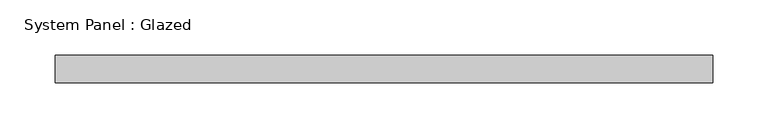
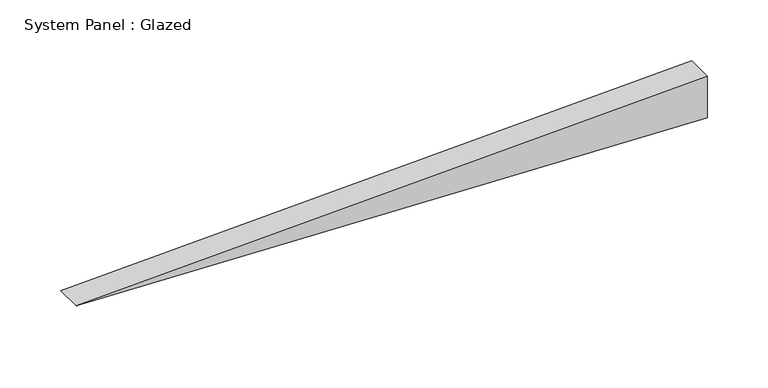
"""IFC4 building model written with IfcOpenShell, lengths in millimetres: plate geometry, System Panel : Glazed."""

from ifc_helpers import new_model, si_unit, origin, place, context, project, spatial, faceted_brep, source, transform, mapped, element, save


def system_panel_glazed_7e7e82f3(model_context):
    return source(origin(), model_context, "Body", "Brep", [
        faceted_brep([(-298.5527441, 24.5, 20.7482734), (298.5527441, 24.5, 0.0), (298.5527441, 24.5, 41.6733756), (-298.5527441, 49.5, 20.9251022), (298.5527441, 49.5, 41.6733756), (298.5527441, 49.5, 0.0)], [[[0, 1, 2]], [[3, 4, 5]], [[1, 0, 3, 5]], [[2, 1, 5, 4]], [[0, 2, 4, 3]]]),
    ])


if __name__ == "__main__":
    model = new_model("IFC4")
    model_context = context("Model", 3, world=origin())
    ifc_project = project(units=[si_unit("LENGTHUNIT", "METRE", prefix="MILLI")], contexts=[model_context])
    site = spatial("IfcSite", under=ifc_project)
    building = spatial("IfcBuilding", under=site)
    placement = place(None, origin())
    system_panel_glazed_shape = system_panel_glazed_7e7e82f3(model_context)
    element("IfcPlate", 1, ObjectType="System Panel : Glazed", at=placement, inside=building, context=model_context, shape_type="MappedRepresentation", body=[
        mapped(system_panel_glazed_shape, transform((0.0, 0.0, 0.0), x_axis=(1.0, 0.0, 0.0), y_axis=(0.0, 1.0, 0.0), z_axis=(0.0, 0.0, 1.0))),
    ])
    save(model, "model.ifc")
